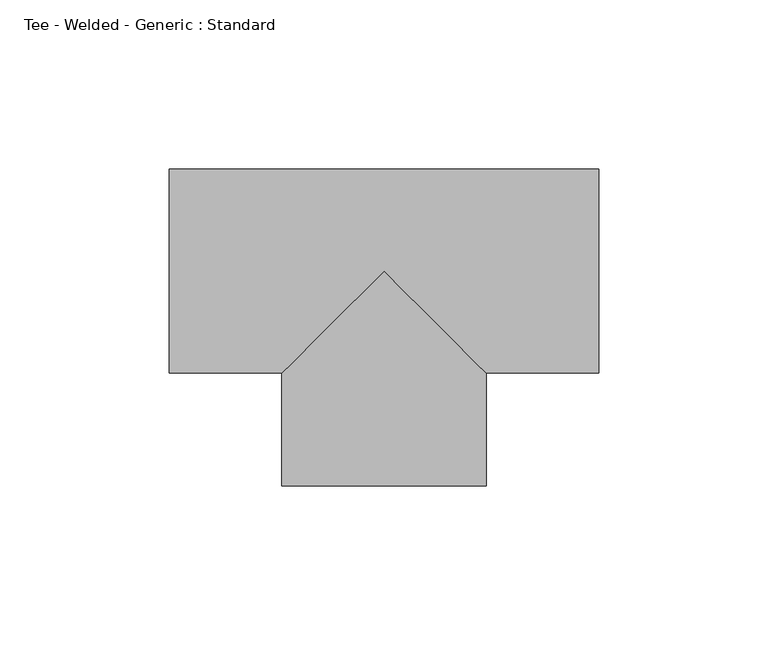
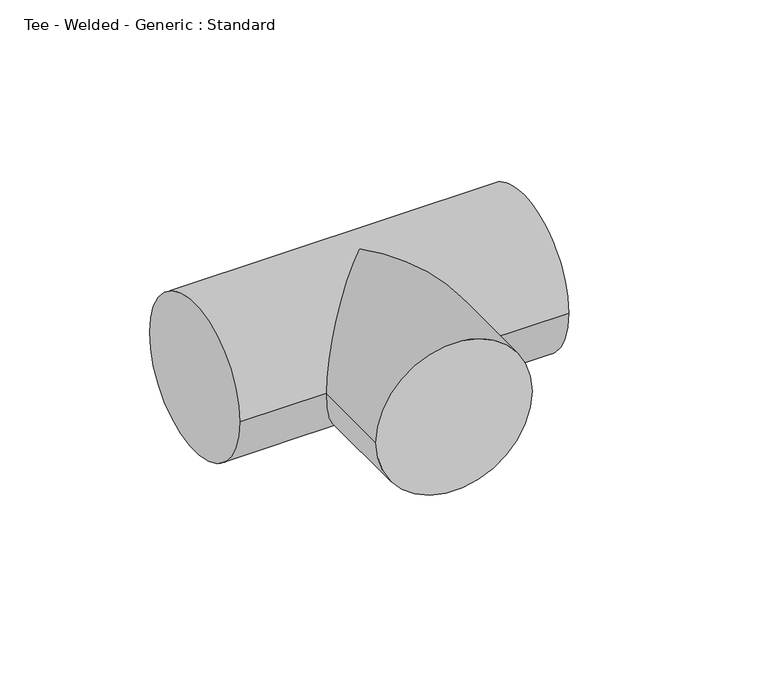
"""IFC4 building model written with IfcOpenShell, lengths in millimetres: pipe fitting geometry, Tee - Welded - Generic : Standard."""

from ifc_helpers import new_model, si_unit, frame, origin, place, context, project, spatial, circle_curve, ellipse_curve, source, transform, mapped, element, save
from ifc_brep_helpers import plane_surface, cylinder_surface, advanced_brep


def tee_welded_generic_standard_2ceb79c9(model_context):
    return source(origin(), model_context, "Body", "AdvancedBrep", [
        advanced_brep(
        [(-63.5, -30.1625, 0.0), (-63.5, 30.1625, 0.0), (63.5, -30.1625, 0.0), (63.5, 30.1625, 0.0), (-30.1624991, -30.1625, 0.0), (0.0, 0.0, 30.1625), (30.1625009, -30.1625, 0.0), (0.0, 0.0, -30.1625), (-30.162498, -63.5000009, 0.0), (30.162502, -63.4999991, 0.0)],
        [
            (0, 1, circle_curve(frame((-63.5, 0.0, 0.0), z_axis=(-1.0, 0.0, 0.0), x_axis=(0.0, 1.0, 0.0)), 30.1625)),
            (1, 0, circle_curve(frame((-63.5, 0.0, 0.0), z_axis=(-1.0, 0.0, 0.0), x_axis=(0.0, 1.0, 0.0)), 30.1625)),
            (2, 3, circle_curve(frame((63.5, 0.0, 0.0), z_axis=(1.0, 0.0, 0.0), x_axis=(0.0, 1.0, 0.0)), 30.1625)),
            (3, 2, circle_curve(frame((63.5, 0.0, 0.0), z_axis=(1.0, 0.0, 0.0), x_axis=(0.0, 1.0, 0.0)), 30.1625)),
            (0, 4),
            (4, 5, ellipse_curve(frame((0.0, 0.0, 0.0), z_axis=(-0.7071067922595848, 0.7071067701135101, 0.0), x_axis=(-0.7071067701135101, -0.7071067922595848, 0.0)), 42.6562159, 30.1625)),
            (5, 6, ellipse_curve(frame((0.0, 0.0, 0.0), z_axis=(0.70710677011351, 0.7071067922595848, 0.0), x_axis=(-0.707106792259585, 0.70710677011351, 0.0)), 42.6562172, 30.1625)),
            (6, 2),
            (3, 1),
            (6, 7, ellipse_curve(frame((0.0, 0.0, 0.0), z_axis=(0.70710677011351, 0.7071067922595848, 0.0), x_axis=(-0.707106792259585, 0.70710677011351, 0.0)), 42.6562172, 30.1625)),
            (7, 4, ellipse_curve(frame((0.0, 0.0, 0.0), z_axis=(-0.7071067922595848, 0.7071067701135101, 0.0), x_axis=(-0.7071067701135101, -0.7071067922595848, 0.0)), 42.6562159, 30.1625)),
            (8, 9, circle_curve(frame((2e-06, -63.5, 0.0), z_axis=(3.1319282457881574e-08, -0.9999999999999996, 0.0), x_axis=(0.9999999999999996, 3.1319282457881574e-08, 0.0)), 30.1625)),
            (9, 8, circle_curve(frame((2e-06, -63.5, 0.0), z_axis=(3.1319282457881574e-08, -0.9999999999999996, 0.0), x_axis=(0.9999999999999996, 3.1319282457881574e-08, 0.0)), 30.1625)),
            (9, 6),
            (4, 8),
        ],
        [
            plane_surface(frame((-63.5, 0.0, 0.0), z_axis=(-1.0, 0.0, 0.0), x_axis=(0.0, 0.0, 1.0))),
            plane_surface(frame((63.5, 0.0, 0.0), z_axis=(1.0, 0.0, 0.0), x_axis=(0.0, 0.0, 1.0))),
            cylinder_surface(frame((-63.5, 0.0, 0.0), z_axis=(-1.0, 0.0, 0.0), x_axis=(0.0, 1.0, 0.0)), 30.1625),
            plane_surface(frame((2e-06, -63.5, 0.0), z_axis=(3.1319282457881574e-08, -0.9999999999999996, 0.0), x_axis=(0.0, 0.0, 1.0))),
            cylinder_surface(frame((0.0, 0.0, 0.0), z_axis=(-3.1319282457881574e-08, 0.9999999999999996, 0.0), x_axis=(0.9999999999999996, 3.1319282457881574e-08, 0.0)), 30.1625),
        ],
        [
            (0, [[1, 2]]),
            (1, [[3, 4]]),
            (2, [[-1, 5, 6, 7, 8, -4, 9]]),
            (2, [[-2, -9, -3, -8, 10, 11, -5]]),
            (3, [[12, 13]]),
            (4, [[-13, 14, -7, -6, 15]]),
            (4, [[-12, -15, -11, -10, -14]]),
        ],
    ),
    ])


if __name__ == "__main__":
    model = new_model("IFC4")
    model_context = context("Model", 3, world=origin())
    ifc_project = project(units=[si_unit("LENGTHUNIT", "METRE", prefix="MILLI")], contexts=[model_context])
    site = spatial("IfcSite", under=ifc_project)
    building = spatial("IfcBuilding", under=site)
    placement = place(None, origin())
    tee_welded_generic_standard_shape = tee_welded_generic_standard_2ceb79c9(model_context)
    element("IfcPipeFitting", 1, ObjectType="Tee - Welded - Generic : Standard", at=placement, inside=building, context=model_context, shape_type="MappedRepresentation", body=[
        mapped(tee_welded_generic_standard_shape, transform((0.0, 0.0, 0.0), x_axis=(1.0, 0.0, 0.0), y_axis=(0.0, 1.0, 0.0), z_axis=(0.0, 0.0, 1.0))),
    ])
    save(model, "model.ifc")
